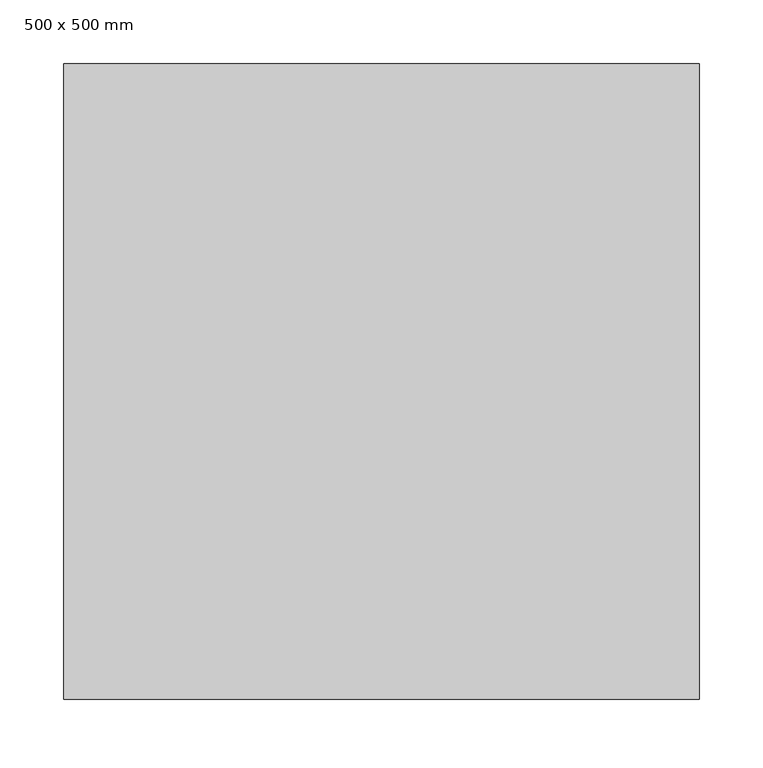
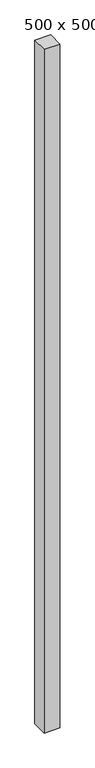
"""IFC4 building model written with IfcOpenShell, lengths in millimetres: column geometry, 预制-矩形柱 : 500 x 500 mm."""

from ifc_helpers import new_model, si_unit, frame, origin, place, context, project, spatial, polyline, outline, extrude, source, transform, mapped, element, save


def column_500_x_500_mm_b83ffd69(model_context):
    return source(origin(), model_context, "Body", "SweptSolid", [
        extrude(outline(polyline([(250.0, 250.0), (250.0, -250.0), (-250.0, -250.0), (-250.0, 250.0), (250.0, 250.0)])), frame((0.0, 0.0, -3900.0), z_axis=(0.0, 0.0, 1.0), x_axis=(1.0, 0.0, 0.0)), (0.0, 0.0, 1.0), 22800.0),
    ])


if __name__ == "__main__":
    model = new_model("IFC4")
    model_context = context("Model", 3, world=origin())
    ifc_project = project(units=[si_unit("LENGTHUNIT", "METRE", prefix="MILLI")], contexts=[model_context])
    site = spatial("IfcSite", under=ifc_project)
    building = spatial("IfcBuilding", under=site)
    placement = place(None, origin())
    column_500_x_500_mm_shape = column_500_x_500_mm_b83ffd69(model_context)
    element("IfcColumn", 1, ObjectType="预制-矩形柱 : 500 x 500 mm", at=placement, inside=building, context=model_context, shape_type="MappedRepresentation", body=[
        mapped(column_500_x_500_mm_shape, transform((0.0, 0.0, 0.0), x_axis=(1.0, 0.0, 0.0), y_axis=(0.0, 1.0, 0.0), z_axis=(0.0, 0.0, 1.0))),
    ])
    save(model, "model.ifc")
